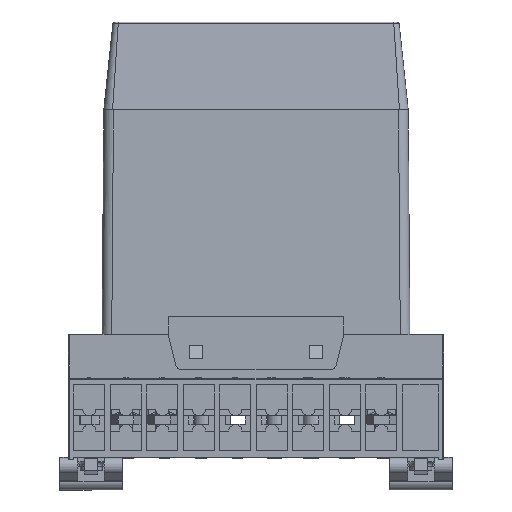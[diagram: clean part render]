
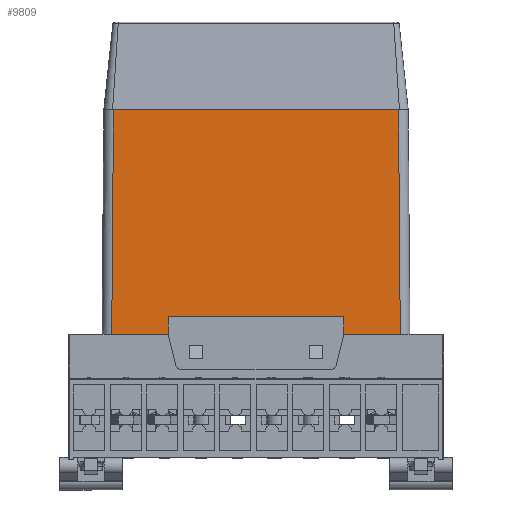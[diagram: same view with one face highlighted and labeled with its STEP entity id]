
A CAD part, left-side view. The second image highlights one B-rep face of the part: STEP entity #9809.
In plain terms, the highlighted planar face has unit normal (-1, 0, 0.008).
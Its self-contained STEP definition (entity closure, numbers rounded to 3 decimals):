
#9809=ADVANCED_FACE('',(#63355),#63357,.T.);
#63355=FACE_BOUND('',#63356,.T.);
#63356=EDGE_LOOP('',(#117993,#117994,#117995,#117996,#117997,#117998,#117999,#118000));
#63357=PLANE('',#63358);
#63358=AXIS2_PLACEMENT_3D('',#63359,#63360,#63361);
#63359=CARTESIAN_POINT('',(-19.231,-31.4,79.));
#63360=DIRECTION('',(-1.,0.,0.008));
#63361=DIRECTION('',(0.,1.,0.));
#117993=ORIENTED_EDGE('',*,*,#151086,.F.);
#117994=ORIENTED_EDGE('',*,*,#151087,.F.);
#117995=ORIENTED_EDGE('',*,*,#148700,.F.);
#117996=ORIENTED_EDGE('',*,*,#151076,.F.);
#117997=ORIENTED_EDGE('',*,*,#151088,.T.);
#117998=ORIENTED_EDGE('',*,*,#151089,.T.);
#117999=ORIENTED_EDGE('',*,*,#148714,.F.);
#118000=ORIENTED_EDGE('',*,*,#151090,.F.);
#148700=EDGE_CURVE('',#167772,#167774,#167775,.T.);
#148714=EDGE_CURVE('',#167793,#167796,#167797,.T.);
#151076=EDGE_CURVE('',#171523,#167772,#171525,.T.);
#151086=EDGE_CURVE('',#171541,#171542,#171543,.T.);
#151087=EDGE_CURVE('',#167774,#171541,#171544,.T.);
#151088=EDGE_CURVE('',#171523,#171545,#171546,.T.);
#151089=EDGE_CURVE('',#171545,#167796,#171547,.T.);
#151090=EDGE_CURVE('',#171542,#167793,#171548,.T.);
#167772=VERTEX_POINT('',#200997);
#167774=VERTEX_POINT('',#201002);
#167775=LINE('',#201003,#201004);
#167793=VERTEX_POINT('',#201047);
#167796=VERTEX_POINT('',#201054);
#167797=LINE('',#201055,#201056);
#171523=VERTEX_POINT('',#210086);
#171525=LINE('',#210091,#210092);
#171541=VERTEX_POINT('',#210135);
#171542=VERTEX_POINT('',#210136);
#171543=LINE('',#210137,#210138);
#171544=LINE('',#210140,#210141);
#171545=VERTEX_POINT('',#210143);
#171546=LINE('',#210144,#210145);
#171547=LINE('',#210147,#210148);
#171548=LINE('',#210150,#210151);
#200997=CARTESIAN_POINT('',(-19.631,-31.8,28.));
#201002=CARTESIAN_POINT('',(-19.631,-19.,28.));
#201003=CARTESIAN_POINT('',(-19.631,-31.8,28.));
#201004=VECTOR('',#201005,1.);
#201005=DIRECTION('',(0.,1.,0.));
#201047=CARTESIAN_POINT('',(-19.631,21.,28.));
#201054=CARTESIAN_POINT('',(-19.631,33.8,28.));
#201055=CARTESIAN_POINT('',(-19.631,21.,28.));
#201056=VECTOR('',#201057,1.);
#201057=DIRECTION('',(0.,1.,0.));
#210086=CARTESIAN_POINT('',(-19.231,-31.4,79.));
#210091=CARTESIAN_POINT('',(-19.231,-31.4,79.));
#210092=VECTOR('',#210093,1.);
#210093=DIRECTION('',(-0.008,-0.008,-1.));
#210135=CARTESIAN_POINT('',(-19.6,-19.,32.));
#210136=CARTESIAN_POINT('',(-19.6,21.,32.));
#210137=CARTESIAN_POINT('',(-19.6,-19.,32.));
#210138=VECTOR('',#210139,1.);
#210139=DIRECTION('',(0.,1.,0.));
#210140=CARTESIAN_POINT('',(-19.631,-19.,28.));
#210141=VECTOR('',#210142,1.);
#210142=DIRECTION('',(0.008,0.,1.));
#210143=CARTESIAN_POINT('',(-19.231,33.4,79.));
#210144=CARTESIAN_POINT('',(-19.231,-31.4,79.));
#210145=VECTOR('',#210146,1.);
#210146=DIRECTION('',(0.,1.,0.));
#210147=CARTESIAN_POINT('',(-19.231,33.4,79.));
#210148=VECTOR('',#210149,1.);
#210149=DIRECTION('',(-0.008,0.008,-1.));
#210150=CARTESIAN_POINT('',(-19.6,21.,32.));
#210151=VECTOR('',#210152,1.);
#210152=DIRECTION('',(-0.008,0.,-1.));
